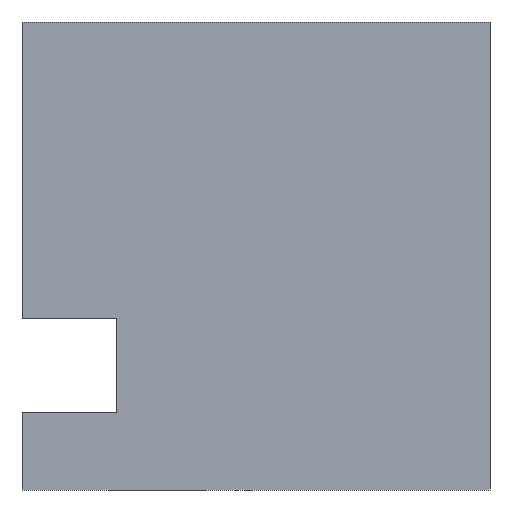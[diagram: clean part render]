
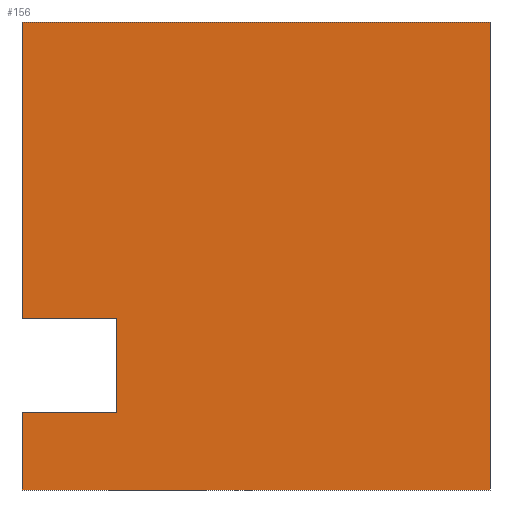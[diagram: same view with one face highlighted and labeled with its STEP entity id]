
A CAD part, front view. The second image highlights one B-rep face of the part: STEP entity #156.
In plain terms, the highlighted planar face has unit normal (0, -1, 0).
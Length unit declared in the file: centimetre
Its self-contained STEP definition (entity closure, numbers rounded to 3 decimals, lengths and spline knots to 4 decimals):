
#1 = CARTESIAN_POINT ( 'NONE',  ( 0., 0., 367.0765 ) ) ;
#23 = VECTOR ( 'NONE', #608, 100. ) ;
#28 = VERTEX_POINT ( 'NONE', #734 ) ;
#55 = VERTEX_POINT ( 'NONE', #271 ) ;
#60 = EDGE_CURVE ( 'NONE', #55, #28, #1203, .T. ) ;
#62 = EDGE_CURVE ( 'NONE', #1058, #1204, #838, .T. ) ;
#91 = DIRECTION ( 'NONE',  ( 1., 0., 0. ) ) ;
#104 = VECTOR ( 'NONE', #1121, 100. ) ;
#120 = VECTOR ( 'NONE', #875, 100. ) ;
#141 = VERTEX_POINT ( 'NONE', #769 ) ;
#156 = ADVANCED_FACE ( 'NONE', ( #754 ), #377, .F. ) ;
#184 = CARTESIAN_POINT ( 'NONE',  ( 0., 0., 164.8113 ) ) ;
#201 = DIRECTION ( 'NONE',  ( 0., 0., -1. ) ) ;
#203 = CARTESIAN_POINT ( 'NONE',  ( 0., 0., 1000. ) ) ;
#262 = AXIS2_PLACEMENT_3D ( 'NONE', #203, #298, #750 ) ;
#271 = CARTESIAN_POINT ( 'NONE',  ( 201.1685, 0., 367.0765 ) ) ;
#281 = CARTESIAN_POINT ( 'NONE',  ( 1000., 0., 1000. ) ) ;
#291 = LINE ( 'NONE', #1033, #747 ) ;
#298 = DIRECTION ( 'NONE',  ( 0., 1., 0. ) ) ;
#329 = EDGE_CURVE ( 'NONE', #28, #955, #774, .T. ) ;
#377 = PLANE ( 'NONE',  #262 ) ;
#397 = ORIENTED_EDGE ( 'NONE', *, *, #1017, .T. ) ;
#424 = ORIENTED_EDGE ( 'NONE', *, *, #583, .F. ) ;
#435 = VECTOR ( 'NONE', #91, 100. ) ;
#471 = DIRECTION ( 'NONE',  ( 1., 0., 0. ) ) ;
#498 = EDGE_CURVE ( 'NONE', #878, #1204, #628, .T. ) ;
#542 = CARTESIAN_POINT ( 'NONE',  ( 0., 0., 0. ) ) ;
#560 = LINE ( 'NONE', #928, #435 ) ;
#583 = EDGE_CURVE ( 'NONE', #871, #878, #560, .T. ) ;
#608 = DIRECTION ( 'NONE',  ( 0., 0., -1. ) ) ;
#622 = CARTESIAN_POINT ( 'NONE',  ( 0., 0., 1000. ) ) ;
#628 = LINE ( 'NONE', #281, #763 ) ;
#678 = ORIENTED_EDGE ( 'NONE', *, *, #725, .T. ) ;
#723 = DIRECTION ( 'NONE',  ( 0., 0., -1. ) ) ;
#725 = EDGE_CURVE ( 'NONE', #955, #1058, #1167, .T. ) ;
#734 = CARTESIAN_POINT ( 'NONE',  ( 201.1685, 0., 164.8113 ) ) ;
#737 = CARTESIAN_POINT ( 'NONE',  ( 1000., 0., 1000. ) ) ;
#747 = VECTOR ( 'NONE', #201, 100. ) ;
#750 = DIRECTION ( 'NONE',  ( 0., 0., 1. ) ) ;
#754 = FACE_OUTER_BOUND ( 'NONE', #1171, .T. ) ;
#763 = VECTOR ( 'NONE', #723, 100. ) ;
#769 = CARTESIAN_POINT ( 'NONE',  ( 0., 0., 367.0765 ) ) ;
#774 = LINE ( 'NONE', #991, #120 ) ;
#814 = CARTESIAN_POINT ( 'NONE',  ( 201.1685, 0., 164.8113 ) ) ;
#835 = LINE ( 'NONE', #1, #104 ) ;
#838 = LINE ( 'NONE', #542, #1151 ) ;
#866 = ORIENTED_EDGE ( 'NONE', *, *, #62, .T. ) ;
#871 = VERTEX_POINT ( 'NONE', #927 ) ;
#875 = DIRECTION ( 'NONE',  ( -1., 0., 0. ) ) ;
#878 = VERTEX_POINT ( 'NONE', #737 ) ;
#880 = VECTOR ( 'NONE', #913, 100. ) ;
#908 = ORIENTED_EDGE ( 'NONE', *, *, #329, .T. ) ;
#913 = DIRECTION ( 'NONE',  ( 0., 0., -1. ) ) ;
#927 = CARTESIAN_POINT ( 'NONE',  ( 0., 0., 1000. ) ) ;
#928 = CARTESIAN_POINT ( 'NONE',  ( 0., 0., 1000. ) ) ;
#955 = VERTEX_POINT ( 'NONE', #184 ) ;
#975 = ORIENTED_EDGE ( 'NONE', *, *, #498, .F. ) ;
#991 = CARTESIAN_POINT ( 'NONE',  ( 0., 0., 164.8113 ) ) ;
#1000 = EDGE_CURVE ( 'NONE', #141, #55, #835, .T. ) ;
#1017 = EDGE_CURVE ( 'NONE', #871, #141, #291, .T. ) ;
#1033 = CARTESIAN_POINT ( 'NONE',  ( 0., 0., 1000. ) ) ;
#1035 = ORIENTED_EDGE ( 'NONE', *, *, #1000, .T. ) ;
#1047 = CARTESIAN_POINT ( 'NONE',  ( 0., 0., 0. ) ) ;
#1058 = VERTEX_POINT ( 'NONE', #1047 ) ;
#1074 = ORIENTED_EDGE ( 'NONE', *, *, #60, .T. ) ;
#1087 = CARTESIAN_POINT ( 'NONE',  ( 1000., 0., 0. ) ) ;
#1121 = DIRECTION ( 'NONE',  ( 1., 0., 0. ) ) ;
#1151 = VECTOR ( 'NONE', #471, 100. ) ;
#1167 = LINE ( 'NONE', #622, #23 ) ;
#1171 = EDGE_LOOP ( 'NONE', ( #1074, #908, #678, #866, #975, #424, #397, #1035 ) ) ;
#1203 = LINE ( 'NONE', #814, #880 ) ;
#1204 = VERTEX_POINT ( 'NONE', #1087 ) ;
